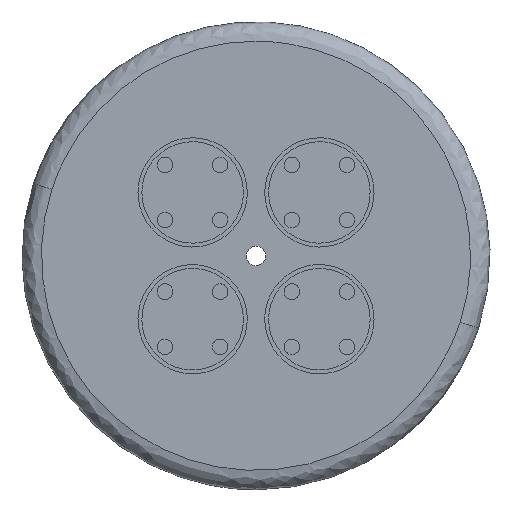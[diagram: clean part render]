
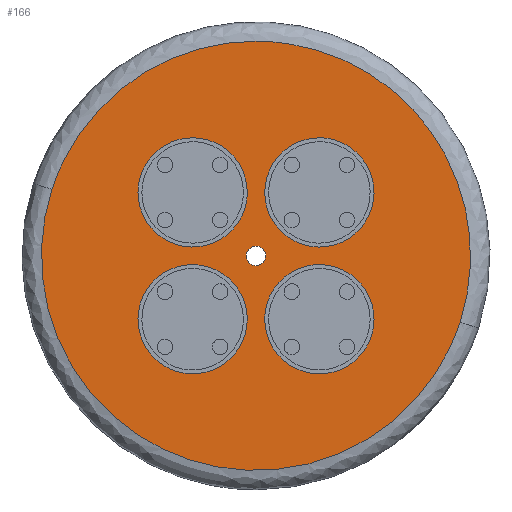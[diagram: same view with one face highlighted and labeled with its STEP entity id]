
A CAD part, front view. The second image highlights one B-rep face of the part: STEP entity #166.
In plain terms, the highlighted planar face has unit normal (0, -1, 0).
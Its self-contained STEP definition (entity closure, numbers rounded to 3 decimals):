
#88=FACE_BOUND('',#355,.T.);
#166=ADVANCED_FACE('',(#250,#88),#1163,.T.);
#250=FACE_OUTER_BOUND('',#354,.T.);
#354=EDGE_LOOP('',(#652,#653,#654));
#355=EDGE_LOOP('',(#655,#656));
#652=ORIENTED_EDGE('',*,*,#840,.T.);
#653=ORIENTED_EDGE('',*,*,#839,.T.);
#654=ORIENTED_EDGE('',*,*,#838,.T.);
#655=ORIENTED_EDGE('',*,*,#842,.T.);
#656=ORIENTED_EDGE('',*,*,#841,.T.);
#838=EDGE_CURVE('',#1120,#1121,#955,.T.);
#839=EDGE_CURVE('',#1122,#1120,#956,.T.);
#840=EDGE_CURVE('',#1121,#1122,#957,.T.);
#841=EDGE_CURVE('',#1123,#1124,#958,.T.);
#842=EDGE_CURVE('',#1124,#1123,#959,.T.);
#955=(
BOUNDED_CURVE()
B_SPLINE_CURVE(2,(#2582,#2583,#2584,#2585,#2586),.UNSPECIFIED.,.F.,.F.)
B_SPLINE_CURVE_WITH_KNOTS((3,2,3),(0.,518.363,1036.726),
 .UNSPECIFIED.)
CURVE()
GEOMETRIC_REPRESENTATION_ITEM()
RATIONAL_B_SPLINE_CURVE((1.,0.891,1.,0.891,1.))
REPRESENTATION_ITEM('')
);
#956=(
BOUNDED_CURVE()
B_SPLINE_CURVE(2,(#2587,#2588,#2589,#2590,#2591),.UNSPECIFIED.,.F.,.F.)
B_SPLINE_CURVE_WITH_KNOTS((3,2,3),(0.,863.938,1727.876),
 .UNSPECIFIED.)
CURVE()
GEOMETRIC_REPRESENTATION_ITEM()
RATIONAL_B_SPLINE_CURVE((1.,0.707,1.,0.707,1.))
REPRESENTATION_ITEM('')
);
#957=(
BOUNDED_CURVE()
B_SPLINE_CURVE(2,(#2592,#2593,#2594),.UNSPECIFIED.,.F.,.F.)
B_SPLINE_CURVE_WITH_KNOTS((3,3),(0.,691.15),.UNSPECIFIED.)
CURVE()
GEOMETRIC_REPRESENTATION_ITEM()
RATIONAL_B_SPLINE_CURVE((1.,0.809,1.))
REPRESENTATION_ITEM('')
);
#958=(
BOUNDED_CURVE()
B_SPLINE_CURVE(2,(#2595,#2596,#2597,#2598,#2599),.UNSPECIFIED.,.F.,.F.)
B_SPLINE_CURVE_WITH_KNOTS((3,2,3),(0.,39.27,78.54),
 .UNSPECIFIED.)
CURVE()
GEOMETRIC_REPRESENTATION_ITEM()
RATIONAL_B_SPLINE_CURVE((1.,0.707,1.,0.707,1.))
REPRESENTATION_ITEM('')
);
#959=(
BOUNDED_CURVE()
B_SPLINE_CURVE(2,(#2600,#2601,#2602,#2603,#2604),.UNSPECIFIED.,.F.,.F.)
B_SPLINE_CURVE_WITH_KNOTS((3,2,3),(0.,39.27,78.54),
 .UNSPECIFIED.)
CURVE()
GEOMETRIC_REPRESENTATION_ITEM()
RATIONAL_B_SPLINE_CURVE((1.,0.707,1.,0.707,1.))
REPRESENTATION_ITEM('')
);
#1120=VERTEX_POINT('',#2567);
#1121=VERTEX_POINT('',#2568);
#1122=VERTEX_POINT('',#2569);
#1123=VERTEX_POINT('',#2570);
#1124=VERTEX_POINT('',#2571);
#1163=PLANE('',#1267);
#1267=AXIS2_PLACEMENT_3D('',#2485,#1300,$);
#1300=DIRECTION('',(0.,-1.,0.));
#2485=CARTESIAN_POINT('',(-550.,0.,-550.));
#2567=CARTESIAN_POINT('',(523.081,0.,-169.959));
#2568=CARTESIAN_POINT('',(0.,0.,550.));
#2569=CARTESIAN_POINT('',(-523.081,0.,169.959));
#2570=CARTESIAN_POINT('',(0.,0.,-25.));
#2571=CARTESIAN_POINT('',(0.,0.,25.));
#2582=CARTESIAN_POINT('',(523.081,0.,-169.959));
#2583=CARTESIAN_POINT('',(609.68,0.,96.564));
#2584=CARTESIAN_POINT('',(444.959,0.,323.282));
#2585=CARTESIAN_POINT('',(280.239,0.,550.));
#2586=CARTESIAN_POINT('',(0.,0.,550.));
#2587=CARTESIAN_POINT('',(-523.081,0.,169.959));
#2588=CARTESIAN_POINT('',(-693.04,0.,-353.122));
#2589=CARTESIAN_POINT('',(-169.959,0.,-523.081));
#2590=CARTESIAN_POINT('',(353.122,0.,-693.04));
#2591=CARTESIAN_POINT('',(523.081,0.,-169.959));
#2592=CARTESIAN_POINT('',(0.,0.,550.));
#2593=CARTESIAN_POINT('',(-399.598,0.,550.));
#2594=CARTESIAN_POINT('',(-523.081,0.,169.959));
#2595=CARTESIAN_POINT('',(0.,0.,-25.));
#2596=CARTESIAN_POINT('',(-25.,0.,-25.));
#2597=CARTESIAN_POINT('',(-25.,0.,0.));
#2598=CARTESIAN_POINT('',(-25.,0.,25.));
#2599=CARTESIAN_POINT('',(0.,0.,25.));
#2600=CARTESIAN_POINT('',(0.,0.,25.));
#2601=CARTESIAN_POINT('',(25.,0.,25.));
#2602=CARTESIAN_POINT('',(25.,0.,0.));
#2603=CARTESIAN_POINT('',(25.,0.,-25.));
#2604=CARTESIAN_POINT('',(0.,0.,-25.));
